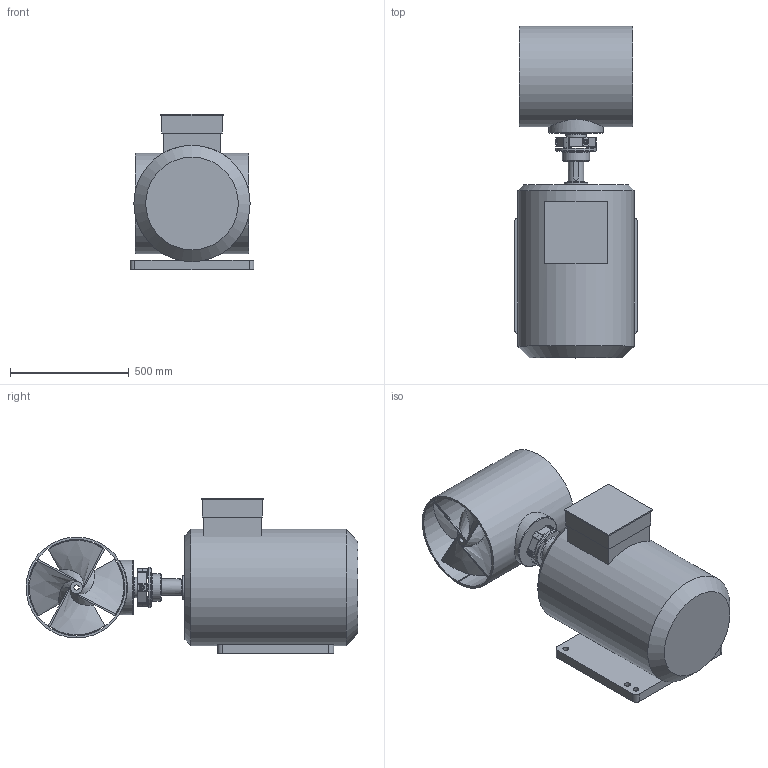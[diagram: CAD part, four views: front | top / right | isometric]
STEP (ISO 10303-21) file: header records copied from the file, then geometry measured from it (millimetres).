
FILE_DESCRIPTION(/* description */ (''),/* implementation_level */ '2;1');
FILE_NAME(/* name */ 'Q:\THRUSTERS\THRUSTER SALES & SUPPORT DOCS\THRUSTER Sales\E-T\E-0400-T\E-0400-T.stp',/* time_stamp */ '2021-01-27T16:22:01+00:00',/* author */ ('Barney.Webborn'),/* organization */ (''),/* preprocessor_version */ 'ST-DEVELOPER v17.2',/* originating_system */ 'Autodesk Inventor 2019',/* authorisation */ '');
FILE_SCHEMA (('AUTOMOTIVE_DESIGN { 1 0 10303 214 3 1 1 }'));
Length unit declared in the file: millimetre
Products named in the file (1): E-0400-T_Shrinkwrap_1
Bounding box: 522 x 1398.72 x 657 mm (x, y, z)
Volume: 168381834.4 mm3; surface area: 4762895.2 mm2
Topology: 6 solids, 18 shells, 899 faces, 2426 edges, 1550 vertices
Faces by surface type: cylinder 355, plane 267, torus 120, bspline 78, cone 67, sphere 12
Full cylindrical faces by diameter (mm): 11.834 x6, 11.999 x3, 12 x1, 13.995 x6, 14.95 x2, 17.5 x1, 20.8 x6, 21.869 x9, 24 x6, 30 x1, 57 x2, 63 x1, 65 x1, 70 x1, 72 x2, 84.988 x1, 95 x1, 97 x1, 100 x1, 115.062 x1, 135 x1, 136 x2, 169.926 x1, 175 x2, 185 x2, 230 x1, 490 x1
Entity records: 39634 total; most frequent: CARTESIAN_POINT 16219, ORIENTED_EDGE 4781, DIRECTION 4717, EDGE_CURVE 2410, AXIS2_PLACEMENT_3D 1912, VERTEX_POINT 1550, CIRCLE 1052, EDGE_LOOP 990
